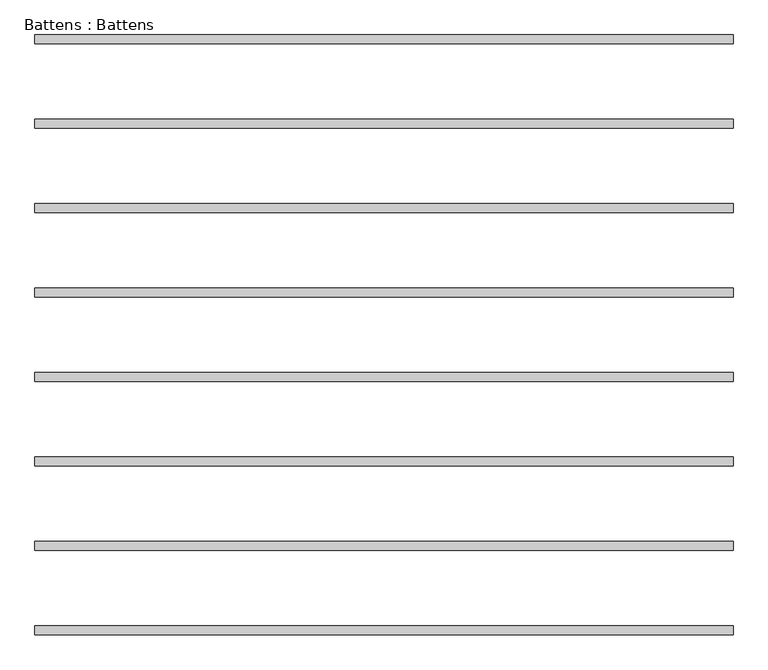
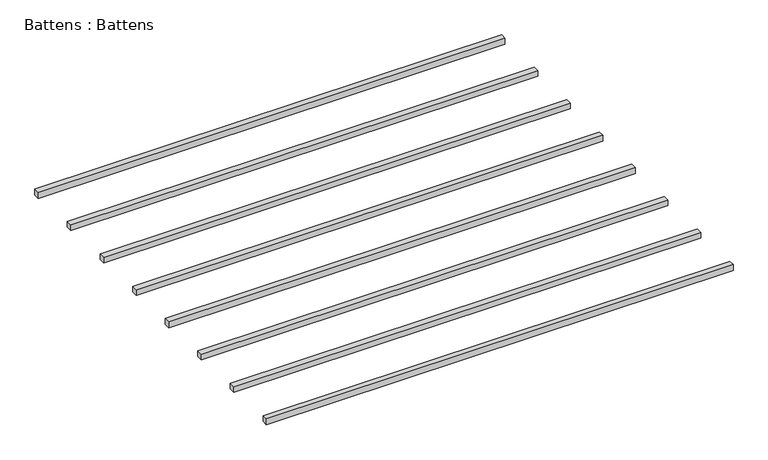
"""IFC4 building model written with IfcOpenShell, lengths in millimetres: proxy geometry, Battens : Battens."""

from ifc_helpers import new_model, si_unit, origin, origin_with_axes, place, context, project, spatial, polyline, outline, extrude, source, transform, mapped, element, save


def battens_battens_fa787d6b(model_context):
    return source(origin(), model_context, "Body", "SweptSolid", [
        extrude(outline(polyline([(3100.0, -2605.0), (3100.0, -2645.0), (0.0, -2645.0), (0.0, -2605.0), (3100.0, -2605.0)])), origin_with_axes(), (0.0, 0.0, 1.0), 40.0),
        extrude(outline(polyline([(3100.0, -2230.0), (3100.0, -2270.0), (0.0, -2270.0), (0.0, -2230.0), (3100.0, -2230.0)])), origin_with_axes(), (0.0, 0.0, 1.0), 40.0),
        extrude(outline(polyline([(3100.0, -1855.0), (3100.0, -1895.0), (0.0, -1895.0), (0.0, -1855.0), (3100.0, -1855.0)])), origin_with_axes(), (0.0, 0.0, 1.0), 40.0),
        extrude(outline(polyline([(3100.0, -1480.0), (3100.0, -1520.0), (0.0, -1520.0), (0.0, -1480.0), (3100.0, -1480.0)])), origin_with_axes(), (0.0, 0.0, 1.0), 40.0),
        extrude(outline(polyline([(3100.0, -1105.0), (3100.0, -1145.0), (0.0, -1145.0), (0.0, -1105.0), (3100.0, -1105.0)])), origin_with_axes(), (0.0, 0.0, 1.0), 40.0),
        extrude(outline(polyline([(3100.0, -730.0), (3100.0, -770.0), (0.0, -770.0), (0.0, -730.0), (3100.0, -730.0)])), origin_with_axes(), (0.0, 0.0, 1.0), 40.0),
        extrude(outline(polyline([(3100.0, -355.0), (3100.0, -395.0), (0.0, -395.0), (0.0, -355.0), (3100.0, -355.0)])), origin_with_axes(), (0.0, 0.0, 1.0), 40.0),
        extrude(outline(polyline([(3100.0, 20.0), (3100.0, -20.0), (0.0, -20.0), (0.0, 20.0), (3100.0, 20.0)])), origin_with_axes(), (0.0, 0.0, 1.0), 40.0),
    ])


if __name__ == "__main__":
    model = new_model("IFC4")
    model_context = context("Model", 3, world=origin())
    ifc_project = project(units=[si_unit("LENGTHUNIT", "METRE", prefix="MILLI")], contexts=[model_context])
    site = spatial("IfcSite", under=ifc_project)
    building = spatial("IfcBuilding", under=site)
    placement = place(None, origin())
    battens_battens_shape = battens_battens_fa787d6b(model_context)
    element("IfcBuildingElementProxy", 1, Name="Battens : Battens", ObjectType="Battens : Battens", at=placement, inside=building, context=model_context, shape_type="MappedRepresentation", body=[
        mapped(battens_battens_shape, transform((0.0, 0.0, 0.0), x_axis=(1.0, 0.0, 0.0), y_axis=(0.0, 1.0, 0.0), z_axis=(0.0, 0.0, 1.0))),
    ])
    save(model, "model.ifc")
